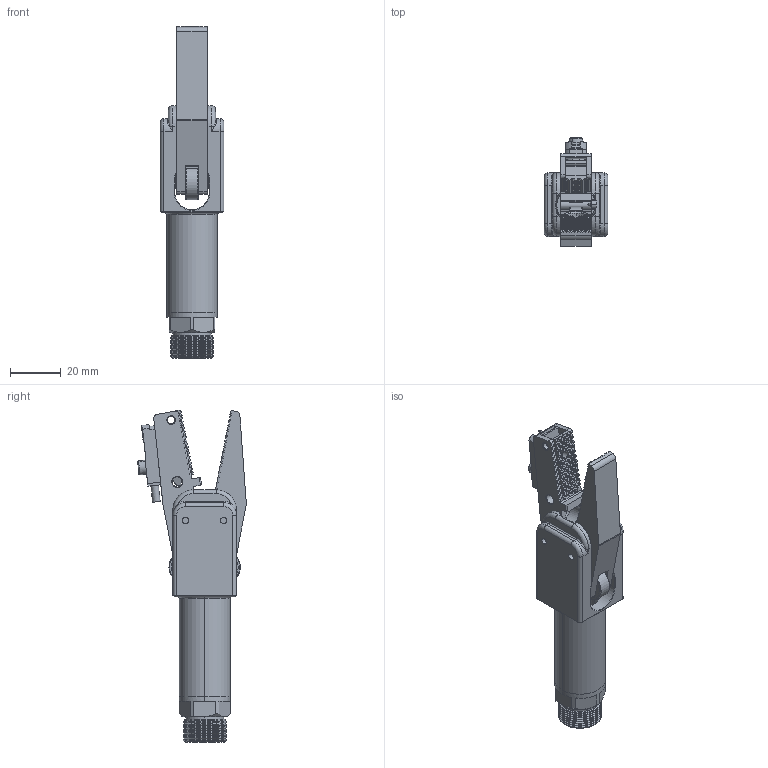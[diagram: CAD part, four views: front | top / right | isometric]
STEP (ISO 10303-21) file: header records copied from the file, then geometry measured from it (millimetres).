
FILE_DESCRIPTION (( 'STEP AP214' ), '1' );
FILE_NAME ('GRT20A-CP.STEP', '2020-11-24T05:36:08', ( '微软用户' ), ( '微软中国' ), 'SwSTEP 2.0', 'SolidWorks 2018', '' );
FILE_SCHEMA (( 'AUTOMOTIVE_DESIGN' ));
Length unit declared in the file: millimetre
Products named in the file (1): GRT20A-CP
Bounding box: 25 x 42.68 x 130.4 mm (x, y, z)
Volume: 36848.6 mm3; surface area: 28320.8 mm2
Topology: 17 solids, 17 shells, 1906 faces, 4445 edges, 2625 vertices
Faces by surface type: plane 1374, cylinder 267, cone 194, bspline 45, torus 26
Entity records: 75465 total; most frequent: CARTESIAN_POINT 11215, ORIENTED_EDGE 8874, DIRECTION 8754, EDGE_CURVE 4437, LINE 3508, VECTOR 3508, VERTEX_POINT 2625, AXIS2_PLACEMENT_3D 2623
